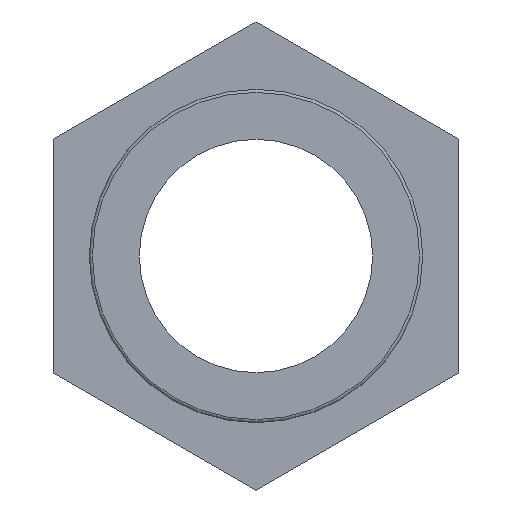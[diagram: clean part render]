
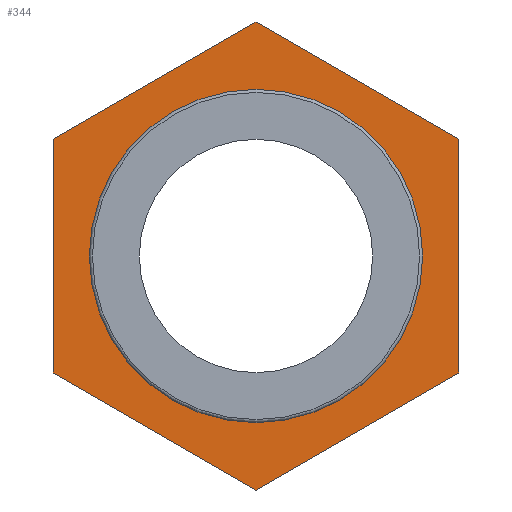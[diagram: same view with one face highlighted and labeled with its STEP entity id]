
A CAD part, left-side view. The second image highlights one B-rep face of the part: STEP entity #344.
In plain terms, the highlighted planar face has unit normal (-1, 0, 0).
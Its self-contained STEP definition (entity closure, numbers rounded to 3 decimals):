
#23=LINE('',#515,#41);
#27=LINE('',#522,#45);
#30=LINE('',#530,#48);
#34=LINE('',#537,#52);
#36=LINE('',#540,#54);
#38=LINE('',#543,#56);
#41=VECTOR('',#410,9.238);
#45=VECTOR('',#416,9.238);
#48=VECTOR('',#421,9.238);
#52=VECTOR('',#427,9.238);
#54=VECTOR('',#431,9.238);
#56=VECTOR('',#435,9.238);
#71=PLANE('',#389);
#93=FACE_BOUND('',#162,.T.);
#118=FACE_OUTER_BOUND('',#161,.T.);
#161=EDGE_LOOP('',(#312,#313,#314,#315,#316,#317));
#162=EDGE_LOOP('',(#318));
#165=CIRCLE('',#351,6.579);
#183=VERTEX_POINT('',#503);
#187=VERTEX_POINT('',#512);
#188=VERTEX_POINT('',#514);
#190=VERTEX_POINT('',#520);
#193=VERTEX_POINT('',#527);
#194=VERTEX_POINT('',#529);
#196=VERTEX_POINT('',#535);
#213=EDGE_CURVE('',#183,#183,#165,.T.);
#217=EDGE_CURVE('',#187,#188,#23,.T.);
#221=EDGE_CURVE('',#190,#187,#27,.T.);
#224=EDGE_CURVE('',#193,#194,#30,.T.);
#228=EDGE_CURVE('',#196,#193,#34,.T.);
#230=EDGE_CURVE('',#188,#196,#36,.T.);
#232=EDGE_CURVE('',#194,#190,#38,.T.);
#312=ORIENTED_EDGE('',*,*,#217,.F.);
#313=ORIENTED_EDGE('',*,*,#221,.F.);
#314=ORIENTED_EDGE('',*,*,#232,.F.);
#315=ORIENTED_EDGE('',*,*,#224,.F.);
#316=ORIENTED_EDGE('',*,*,#228,.F.);
#317=ORIENTED_EDGE('',*,*,#230,.F.);
#318=ORIENTED_EDGE('',*,*,#213,.F.);
#344=ADVANCED_FACE('',(#118,#93),#71,.T.);
#351=AXIS2_PLACEMENT_3D('',#504,#400,#401);
#389=AXIS2_PLACEMENT_3D('',#587,#494,#495);
#400=DIRECTION('center_axis',(-1.,0.,0.));
#401=DIRECTION('ref_axis',(0.,0.,1.));
#410=DIRECTION('',(0.,-0.866,-0.5));
#416=DIRECTION('',(0.,-0.866,0.5));
#421=DIRECTION('',(0.,0.866,0.5));
#427=DIRECTION('',(0.,0.866,-0.5));
#431=DIRECTION('',(0.,0.,-1.));
#435=DIRECTION('',(0.,0.,1.));
#494=DIRECTION('center_axis',(-1.,0.,0.));
#495=DIRECTION('ref_axis',(0.,0.,1.));
#503=CARTESIAN_POINT('',(11.,-6.579,0.));
#504=CARTESIAN_POINT('Origin',(11.,0.,0.));
#512=CARTESIAN_POINT('',(11.,0.,9.238));
#514=CARTESIAN_POINT('',(11.,-8.,4.619));
#515=CARTESIAN_POINT('',(11.,0.,9.238));
#520=CARTESIAN_POINT('',(11.,8.,4.619));
#522=CARTESIAN_POINT('',(11.,8.,4.619));
#527=CARTESIAN_POINT('',(11.,0.,-9.238));
#529=CARTESIAN_POINT('',(11.,8.,-4.619));
#530=CARTESIAN_POINT('',(11.,0.,-9.238));
#535=CARTESIAN_POINT('',(11.,-8.,-4.619));
#537=CARTESIAN_POINT('',(11.,-8.,-4.619));
#540=CARTESIAN_POINT('',(11.,-8.,4.619));
#543=CARTESIAN_POINT('',(11.,8.,-4.619));
#587=CARTESIAN_POINT('Origin',(11.,-6.579,0.));
